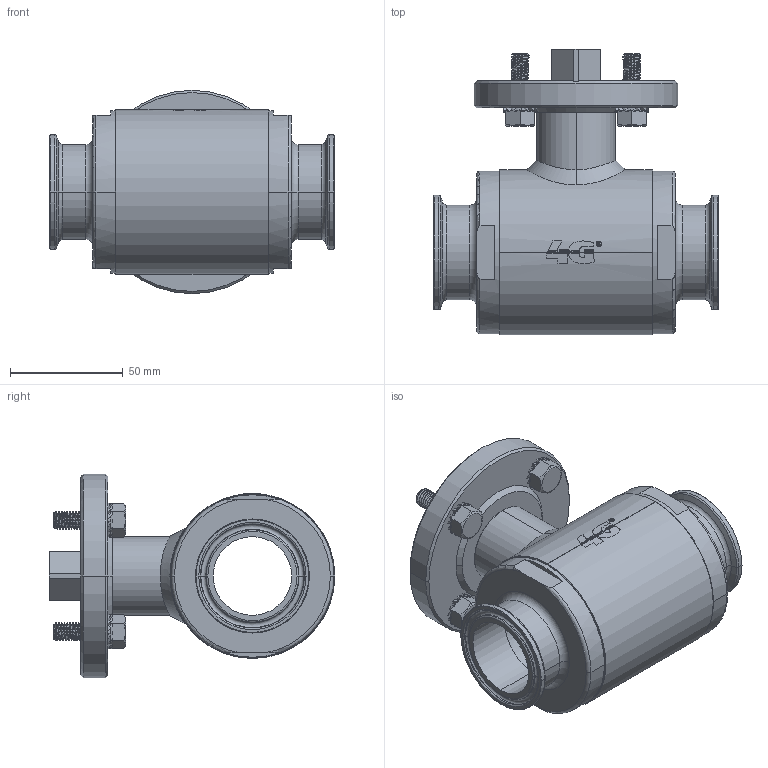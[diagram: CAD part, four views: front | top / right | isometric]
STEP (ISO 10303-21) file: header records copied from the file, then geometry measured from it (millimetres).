
FILE_DESCRIPTION((''),'2;1');
FILE_NAME('1030306341F','2016-07-04T',('UFFICIO TECNICO'),('CDM Tecnoconsulting'),'CREO PARAMETRIC BY PTC INC, 2015290','CREO PARAMETRIC BY PTC INC, 2015290','');
FILE_SCHEMA(('CONFIG_CONTROL_DESIGN'));
Products named in the file (1): 1030306341F
Bounding box: 126 x 126.5 x 90 mm (x, y, z)
Surface area: 99094 mm2 (no closed solid volume)
Topology: 0 solids, 26 shells, 890 faces, 3051 edges, 2124 vertices
Faces by surface type: cylinder 343, plane 277, cone 143, bspline 75, torus 46, extrusion 6
Entity records: 60402 total; most frequent: CARTESIAN_POINT 36377, ORIENTED_EDGE 5111, DIRECTION 4126, EDGE_CURVE 3049, VERTEX_POINT 2124, AXIS2_PLACEMENT_3D 1601, B_SPLINE_CURVE_WITH_KNOTS 1345, EDGE_LOOP 932
